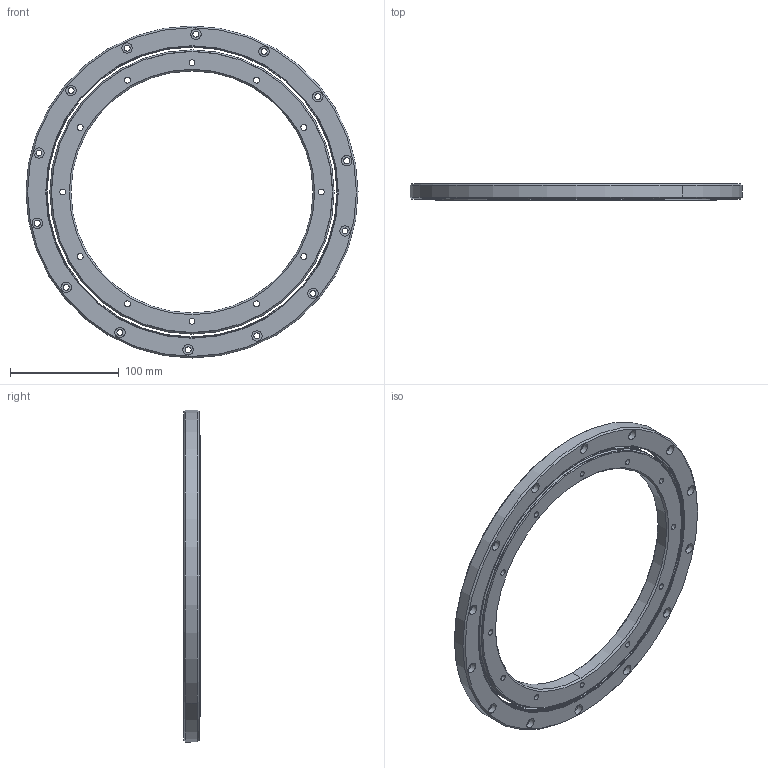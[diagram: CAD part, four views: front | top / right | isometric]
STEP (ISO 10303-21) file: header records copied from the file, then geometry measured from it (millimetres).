
FILE_DESCRIPTION (( 'STEP AP214' ), '1' );
FILE_NAME ('TTS2-223-306-15 Bearing Assembly.STEP', '2018-03-14T15:20:58', ( 'Admin' ), ( '' ), 'SwSTEP 2.0', 'SolidWorks 2018', '' );
FILE_SCHEMA (( 'AUTOMOTIVE_DESIGN' ));
Length unit declared in the file: inch
Products named in the file (3): TTS2 Outer Ring_TTS2-223-306-15; TTS2 Inner Ring_TTS2-223-306-15; TTS2-223-306-15 Bearing Assembly
Assembly tree (2 placements, depth 2):
  TTS2-223-306-15 Bearing Assembly
    TTS2 Inner Ring_TTS2-223-306-15
    TTS2 Outer Ring_TTS2-223-306-15
Bounding box: 304.8 x 15 x 304.8 mm (x, y, z)
Volume: 415160.5 mm3; surface area: 114516.5 mm2
Topology: 2 solids, 2 shells, 210 faces, 472 edges, 294 vertices
Faces by surface type: cylinder 128, plane 32, cone 28, torus 22
Entity records: 6192 total; most frequent: DIRECTION 1218, CARTESIAN_POINT 981, ORIENTED_EDGE 944, AXIS2_PLACEMENT_3D 531, EDGE_CURVE 472, CIRCLE 316, EDGE_LOOP 294, VERTEX_POINT 294
